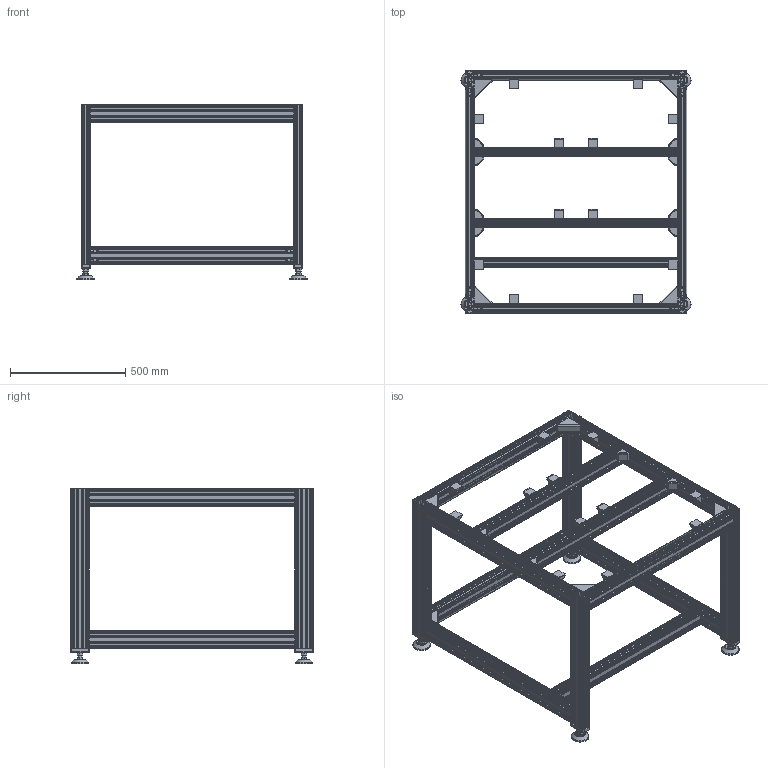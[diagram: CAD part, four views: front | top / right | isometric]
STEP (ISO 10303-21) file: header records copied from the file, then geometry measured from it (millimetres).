
FILE_DESCRIPTION(/* description */ ('Pressenunterbau, 1050x960x760 (TxBxH)'),/* implementation_level */ '2;1');
FILE_NAME(/* name */ 'P:\CAD-Daten-für-Kunden\13_SE-Umhausungen-Grundplatte-Unterbau\Pressenunterbau SE105_ANR35837.stp',/* time_stamp */ '2022-05-16T09:50:44+02:00',/* author */ ('tse'),/* organization */ (''),/* preprocessor_version */ 'ST-DEVELOPER v18',/* originating_system */ 'Autodesk Inventor 2020',/* authorisation */ '');
FILE_SCHEMA (('AUTOMOTIVE_DESIGN { 1 0 10303 214 3 1 1 }'));
Products named in the file (3): 35853; Pressenunterbau 1050x960x760; Pressenunterbau 1050x960x760_Querstrebe
Assembly tree (3 placements, depth 2):
  35853
    Pressenunterbau 1050x960x760
    Pressenunterbau 1050x960x760_Querstrebe  x2
Bounding box: 996 x 1050 x 760 mm (x, y, z)
Volume: 15942704.6 mm3; surface area: 9519430.7 mm2
Topology: 3 solids, 3 shells, 4237 faces, 13347 edges, 8415 vertices
Faces by surface type: plane 3417, cylinder 692, cone 56, sphere 56, torus 16
Full cylindrical faces by diameter (mm): 6.8 x60, 8 x36, 13 x8, 14 x26, 14.2 x8, 15 x8, 16 x8, 16.8 x8, 28.057 x4, 76 x4
Entity records: 141426 total; most frequent: CARTESIAN_POINT 30147, ORIENTED_EDGE 25022, DIRECTION 21615, EDGE_CURVE 12511, LINE 9745, VECTOR 9745, VERTEX_POINT 7911, AXIS2_PLACEMENT_3D 5935
